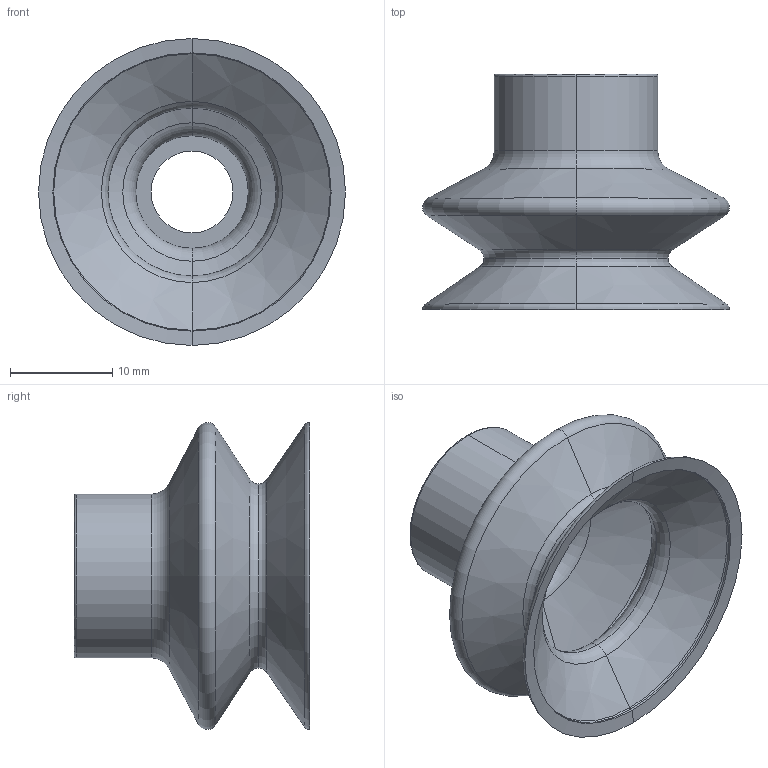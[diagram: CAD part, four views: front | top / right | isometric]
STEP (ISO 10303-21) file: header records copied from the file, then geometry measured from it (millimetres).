
FILE_DESCRIPTION (( 'STEP AP203' ), '1' );
FILE_NAME ('1_30--A.STEP', '2017-04-12T09:52:42', ( '' ), ( '' ), 'SwSTEP 2.0', 'SolidWorks 2016', '' );
FILE_SCHEMA (( 'CONFIG_CONTROL_DESIGN' ));
Length unit declared in the file: millimetre
Products named in the file (1): 1_30--A
Bounding box: 30 x 23 x 30 mm (x, y, z)
Volume: 3034.8 mm3; surface area: 4399.3 mm2
Topology: 1 solids, 1 shells, 46 faces, 92 edges, 48 vertices
Faces by surface type: torus 22, cone 14, cylinder 8, plane 2
Entity records: 1267 total; most frequent: DIRECTION 256, CARTESIAN_POINT 187, ORIENTED_EDGE 184, AXIS2_PLACEMENT_3D 117, EDGE_CURVE 92, CIRCLE 70, EDGE_LOOP 48, VERTEX_POINT 48
